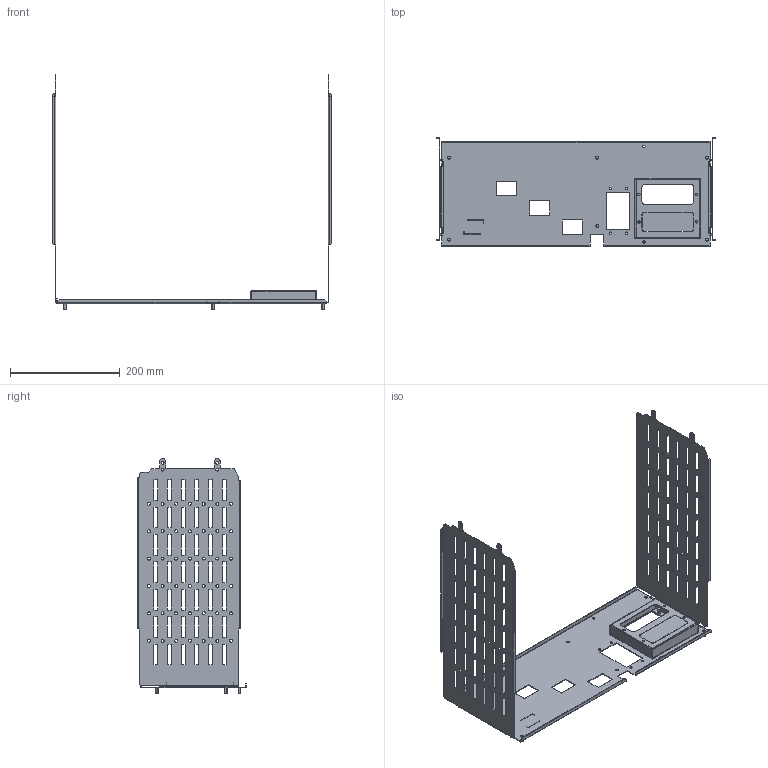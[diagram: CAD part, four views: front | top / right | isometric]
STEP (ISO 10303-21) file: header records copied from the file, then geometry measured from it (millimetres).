
FILE_DESCRIPTION(('CAx-IF Rec.Pracs.---Model Styling and Organization---1.2---2011-12-15','CAx-IF Rec.Pracs.---Geometric and Assembly Validation Properties---4.1---2014-06-16','CAx-IF Rec.Pracs.---PMI Polyline Presentation---2.0---2013-05-24'),'2;1');
FILE_NAME('R5M2W4M1A21.stp','2021-05-05T12:18:04+03:00',(''),(''),'STEP Interface 4.4 by CT CoreTechnologie','3D_Evolution4.4 by CT CoreTechnologie','');
FILE_SCHEMA(('AUTOMOTIVE_DESIGN { 1 0 10303 214 1 1 1 1 }'));
Length unit declared in the file: millimetre
Products named in the file (6): R5M2W4M1A21; RB.1257.00.00.0_-02; RB.1568.00.00.0_-00; M5x8-DIN7500C_stright; RB.1285.00.00.0_-08; RB.1285.00.00.0_-09
Assembly tree (14 placements, depth 2):
  R5M2W4M1A21
    RB.1257.00.00.0_-02
    RB.1568.00.00.0_-00
    M5x8-DIN7500C_stright  x10
    RB.1285.00.00.0_-08
    RB.1285.00.00.0_-09
Bounding box: 510 x 197.5 x 428.6 mm (x, y, z)
Surface area: 488643.3 mm2 (no closed solid volume)
Topology: 0 solids, 16 shells, 920 faces, 2667 edges, 1771 vertices
Faces by surface type: plane 590, cylinder 322, bspline 8
Entity records: 31026 total; most frequent: CARTESIAN_POINT 5573, ORIENTED_EDGE 5226, DIRECTION 4983, EDGE_CURVE 2613, VECTOR 1997, LINE 1997, VERTEX_POINT 1735, AXIS2_PLACEMENT_3D 1493
